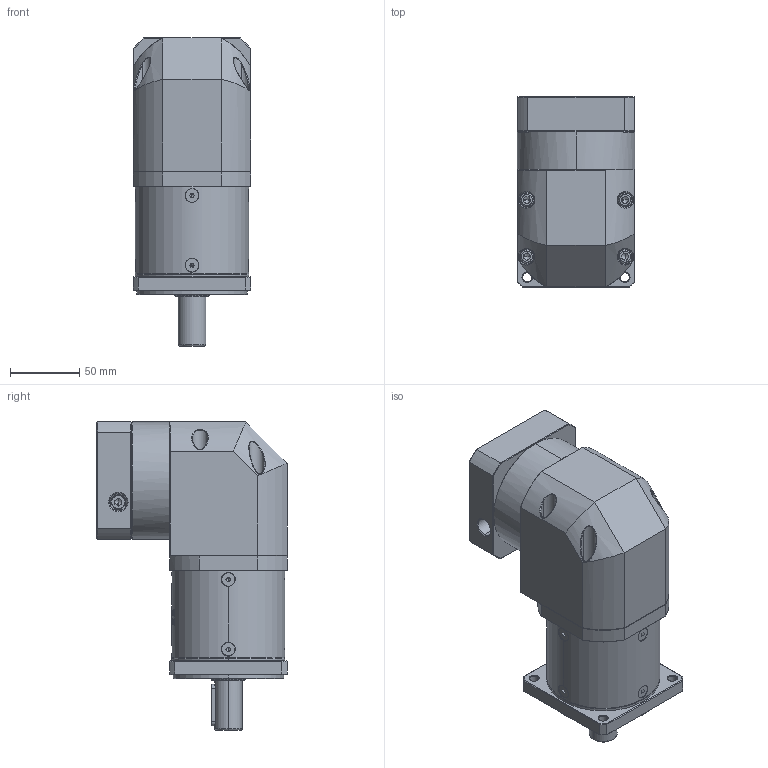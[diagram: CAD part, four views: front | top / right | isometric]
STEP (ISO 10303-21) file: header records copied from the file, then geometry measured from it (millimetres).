
FILE_DESCRIPTION (( 'STEP AP214' ), '1' );
FILE_NAME ('ZFR080-D20-L2-P2-19-70-90-M5.step', '2023-08-25T03:49:54', ( '' ), ( '' ), 'SwSTEP 2.0', 'SolidWorks 2016', '' );
FILE_SCHEMA (( 'AUTOMOTIVE_DESIGN' ));
Length unit declared in the file: millimetre
Products named in the file (1): ZFR080-D20-L2-P2-19-70-90-M5
Bounding box: 85 x 137.6 x 223 mm (x, y, z)
Volume: 1359319.6 mm3; surface area: 139611.1 mm2
Topology: 13 solids, 13 shells, 2455 faces, 6325 edges, 3976 vertices
Faces by surface type: plane 1194, cylinder 449, bspline 418, cone 360, torus 34
Entity records: 129611 total; most frequent: CARTESIAN_POINT 48213, ORIENTED_EDGE 12558, DIRECTION 9537, EDGE_CURVE 6279, VERTEX_POINT 3976, VECTOR 3381, LINE 3381, AXIS2_PLACEMENT_3D 3078
